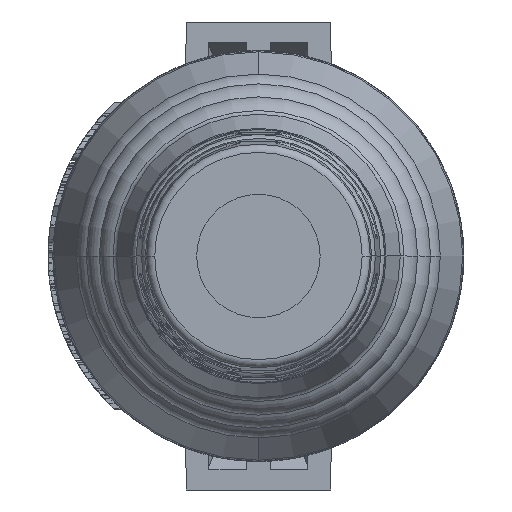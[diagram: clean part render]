
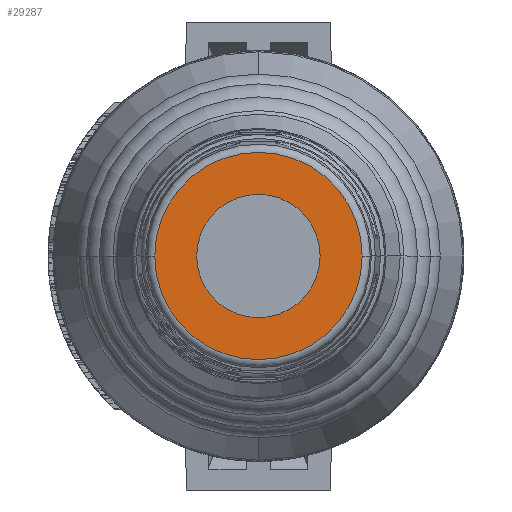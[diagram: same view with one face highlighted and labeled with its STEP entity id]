
A CAD part, front view. The second image highlights one B-rep face of the part: STEP entity #29287.
In plain terms, the highlighted planar face has unit normal (0, -1, 0).
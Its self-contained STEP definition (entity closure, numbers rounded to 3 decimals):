
#6351=CARTESIAN_POINT('',(14.406,-54.779,
0.));
#6352=DIRECTION('',(0.,1.,0.));
#6353=DIRECTION('',(1.,0.,0.));
#6354=AXIS2_PLACEMENT_3D('',#6351,#6352,#6353);
#6356=CARTESIAN_POINT('',(14.406,-54.779,
0.));
#6357=DIRECTION('',(0.,1.,0.));
#6358=DIRECTION('',(-1.,0.,0.));
#6359=AXIS2_PLACEMENT_3D('',#6356,#6357,#6358);
#6361=CARTESIAN_POINT('',(14.406,-54.779,0.));
#6362=DIRECTION('',(0.,1.,0.));
#6363=DIRECTION('',(1.,0.,0.));
#6364=AXIS2_PLACEMENT_3D('',#6361,#6362,#6363);
#6366=CARTESIAN_POINT('',(14.406,-54.779,0.));
#6367=DIRECTION('',(0.,1.,0.));
#6368=DIRECTION('',(-1.,0.,0.));
#6369=AXIS2_PLACEMENT_3D('',#6366,#6367,#6368);
#21694=CARTESIAN_POINT('',(20.788,-54.779,
0.));
#21696=VERTEX_POINT('',#21694);
#21698=CARTESIAN_POINT('',(8.024,-54.779,
0.));
#21700=VERTEX_POINT('',#21698);
#22608=CARTESIAN_POINT('',(18.206,-54.779,
0.));
#22609=CARTESIAN_POINT('',(10.606,-54.779,
0.));
#22610=VERTEX_POINT('',#22608);
#22611=VERTEX_POINT('',#22609);
#29271=CARTESIAN_POINT('',(14.406,-54.779,
0.));
#29272=DIRECTION('',(0.,-1.,0.));
#29273=DIRECTION('',(-1.,0.,0.));
#29274=AXIS2_PLACEMENT_3D('',#29271,#29272,#29273);
#29275=PLANE('',#29274);
#29277=ORIENTED_EDGE('',*,*,#29276,.T.);
#29278=ORIENTED_EDGE('',*,*,#29261,.T.);
#29279=EDGE_LOOP('',(#29277,#29278));
#29280=FACE_OUTER_BOUND('',#29279,.F.);
#29282=ORIENTED_EDGE('',*,*,#29281,.F.);
#29284=ORIENTED_EDGE('',*,*,#29283,.F.);
#29285=EDGE_LOOP('',(#29282,#29284));
#29286=FACE_BOUND('',#29285,.F.);
#29287=ADVANCED_FACE('',(#29280,#29286),#29275,.T.);
#6355=CIRCLE('',#6354,6.382);
#6360=CIRCLE('',#6359,6.382);
#6365=CIRCLE('',#6364,3.8);
#6370=CIRCLE('',#6369,3.8);
#29261=EDGE_CURVE('',#21700,#21696,#6360,.T.);
#29276=EDGE_CURVE('',#21696,#21700,#6355,.T.);
#29281=EDGE_CURVE('',#22610,#22611,#6365,.T.);
#29283=EDGE_CURVE('',#22611,#22610,#6370,.T.);
